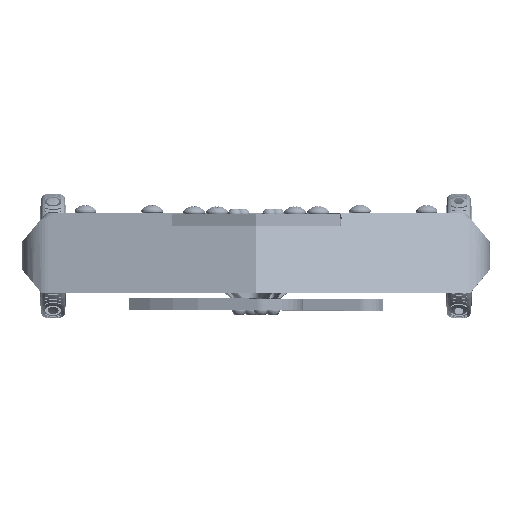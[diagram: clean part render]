
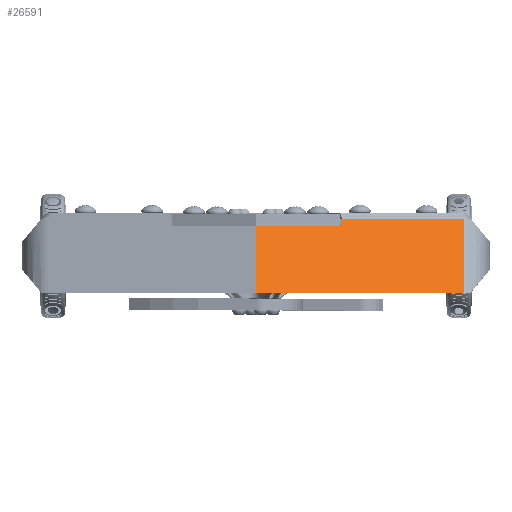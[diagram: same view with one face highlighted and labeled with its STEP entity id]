
A CAD part, top view. The second image highlights one B-rep face of the part: STEP entity #26591.
In plain terms, the highlighted planar face has unit normal (0.326, 0.473, 0.819).
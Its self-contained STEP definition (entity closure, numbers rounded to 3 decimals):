
#5772 = LINE ( 'NONE', #58279, #82108 ) ;
#6469 = LINE ( 'NONE', #199713, #59134 ) ;
#19442 = LINE ( 'NONE', #27333, #171856 ) ;
#22280 = CARTESIAN_POINT ( 'NONE',  ( 53.256, 0., 55. ) ) ;
#26591 = ADVANCED_FACE ( 'NONE', ( #154078 ), #142521, .T. ) ;
#27333 = CARTESIAN_POINT ( 'NONE',  ( 42.641, 19., 48.251 ) ) ;
#30342 = VECTOR ( 'NONE', #196164, 1000. ) ;
#37085 = VERTEX_POINT ( 'NONE', #22280 ) ;
#37136 = VECTOR ( 'NONE', #60199, 1000. ) ;
#52042 = ORIENTED_EDGE ( 'NONE', *, *, #115029, .F. ) ;
#58279 = CARTESIAN_POINT ( 'NONE',  ( 43.037, 17., 49.248 ) ) ;
#58555 = VERTEX_POINT ( 'NONE', #74150 ) ;
#59013 = DIRECTION ( 'NONE',  ( 0.929, 0., -0.369 ) ) ;
#59134 = VECTOR ( 'NONE', #98691, 1000. ) ;
#60199 = DIRECTION ( 'NONE',  ( 0., 0.866, -0.5 ) ) ;
#69159 = VECTOR ( 'NONE', #128571, 1000. ) ;
#69476 = VERTEX_POINT ( 'NONE', #196197 ) ;
#74150 = CARTESIAN_POINT ( 'NONE',  ( 21.784, 19., 56.543 ) ) ;
#82108 = VECTOR ( 'NONE', #59013, 1000. ) ;
#94645 = CARTESIAN_POINT ( 'NONE',  ( 46.407, 0., 57.723 ) ) ;
#98052 = LINE ( 'NONE', #94645, #69159 ) ;
#98691 = DIRECTION ( 'NONE',  ( 0., 0.866, -0.5 ) ) ;
#100163 = CARTESIAN_POINT ( 'NONE',  ( 0., 0., 76.174 ) ) ;
#108597 = DIRECTION ( 'NONE',  ( 0., 0.866, -0.5 ) ) ;
#109383 = CARTESIAN_POINT ( 'NONE',  ( 21.784, 17., 57.698 ) ) ;
#110039 = DIRECTION ( 'NONE',  ( 0.326, 0.473, 0.819 ) ) ;
#113115 = EDGE_CURVE ( 'NONE', #58555, #130540, #169982, .T. ) ;
#113808 = ORIENTED_EDGE ( 'NONE', *, *, #113115, .T. ) ;
#115029 = EDGE_CURVE ( 'NONE', #37085, #201931, #98052, .T. ) ;
#116334 = EDGE_CURVE ( 'NONE', #201931, #69476, #153082, .T. ) ;
#128571 = DIRECTION ( 'NONE',  ( -0.929, 0., 0.369 ) ) ;
#130540 = VERTEX_POINT ( 'NONE', #109383 ) ;
#132616 = VERTEX_POINT ( 'NONE', #181974 ) ;
#142521 = PLANE ( 'NONE',  #207039 ) ;
#145056 = DIRECTION ( 'NONE',  ( 0.929, 0., -0.369 ) ) ;
#153082 = LINE ( 'NONE', #194298, #37136 ) ;
#154078 = FACE_OUTER_BOUND ( 'NONE', #165570, .T. ) ;
#155063 = ORIENTED_EDGE ( 'NONE', *, *, #200028, .T. ) ;
#162848 = EDGE_CURVE ( 'NONE', #58555, #132616, #19442, .T. ) ;
#165570 = EDGE_LOOP ( 'NONE', ( #207923, #113808, #186573, #211764, #52042, #155063 ) ) ;
#169982 = LINE ( 'NONE', #194009, #30342 ) ;
#170258 = EDGE_CURVE ( 'NONE', #69476, #130540, #5772, .T. ) ;
#171856 = VECTOR ( 'NONE', #145056, 1000. ) ;
#181974 = CARTESIAN_POINT ( 'NONE',  ( 53.256, 19., 44.031 ) ) ;
#186573 = ORIENTED_EDGE ( 'NONE', *, *, #170258, .F. ) ;
#194009 = CARTESIAN_POINT ( 'NONE',  ( 21.784, -32.76, 86.427 ) ) ;
#194298 = CARTESIAN_POINT ( 'NONE',  ( 0., 18.656, 65.404 ) ) ;
#196164 = DIRECTION ( 'NONE',  ( 0., -0.866, 0.5 ) ) ;
#196197 = CARTESIAN_POINT ( 'NONE',  ( 0., 17., 66.36 ) ) ;
#199713 = CARTESIAN_POINT ( 'NONE',  ( 53.256, 14.202, 46.801 ) ) ;
#200028 = EDGE_CURVE ( 'NONE', #37085, #132616, #6469, .T. ) ;
#201931 = VERTEX_POINT ( 'NONE', #100163 ) ;
#207039 = AXIS2_PLACEMENT_3D ( 'NONE', #211074, #110039, #108597 ) ;
#207923 = ORIENTED_EDGE ( 'NONE', *, *, #162848, .F. ) ;
#211074 = CARTESIAN_POINT ( 'NONE',  ( 54., -38.306, 76.82 ) ) ;
#211764 = ORIENTED_EDGE ( 'NONE', *, *, #116334, .F. ) ;
